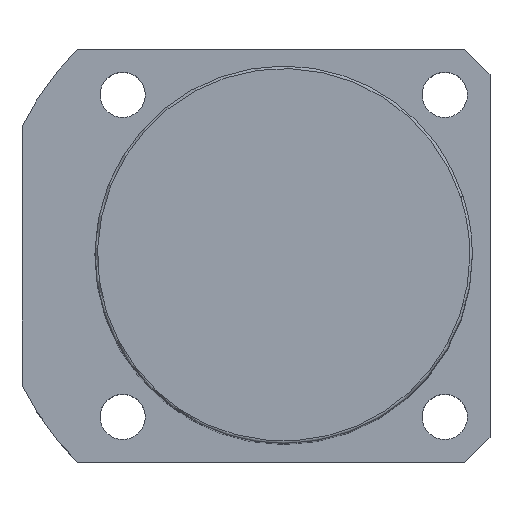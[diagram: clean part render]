
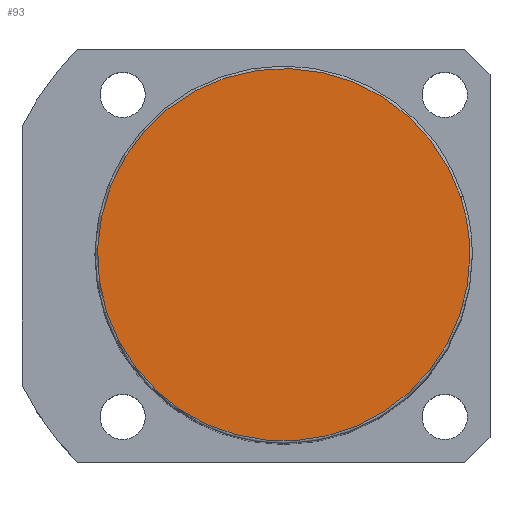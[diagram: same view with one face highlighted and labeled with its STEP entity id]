
A CAD part, top view. The second image highlights one B-rep face of the part: STEP entity #93.
In plain terms, the highlighted planar face has unit normal (0, 0, 1).
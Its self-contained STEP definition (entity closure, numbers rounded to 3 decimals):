
#16=CARTESIAN_POINT('',(35.189,11.434,143.0));
#17=VERTEX_POINT('',#16);
#45=CARTESIAN_POINT('',(-35.189,-11.434,143.0));
#46=VERTEX_POINT('',#45);
#54=CARTESIAN_POINT('',(0.0,0.0,143.0));
#55=DIRECTION('',(0.0,0.0,1.0));
#56=DIRECTION('',(1.0,0.0,0.0));
#57=AXIS2_PLACEMENT_3D('',#54,#55,#56);
#58=CIRCLE('',#57,37.0);
#59=EDGE_CURVE('no 890',#17,#46,#58,.T.);
#69=CARTESIAN_POINT('',(37.0,0.0,143.0));
#70=VERTEX_POINT('',#69);
#71=CARTESIAN_POINT('',(0.0,0.0,143.0));
#72=DIRECTION('',(0.0,0.0,1.0));
#73=DIRECTION('',(1.0,0.0,0.0));
#74=AXIS2_PLACEMENT_3D('',#71,#72,#73);
#75=CIRCLE('',#74,37.0);
#76=EDGE_CURVE('no 899',#70,#17,#75,.T.);
#77=ORIENTED_EDGE('',*,*,#76,.T.);
#78=ORIENTED_EDGE('',*,*,#59,.T.);
#79=CARTESIAN_POINT('',(0.0,0.0,143.0));
#80=DIRECTION('',(0.0,0.0,1.0));
#81=DIRECTION('',(1.0,0.0,0.0));
#82=AXIS2_PLACEMENT_3D('',#79,#80,#81);
#83=CIRCLE('',#82,37.0);
#84=EDGE_CURVE('no 905',#46,#70,#83,.T.);
#85=ORIENTED_EDGE('',*,*,#84,.T.);
#86=EDGE_LOOP('',(#77,#78,#85));
#87=FACE_OUTER_BOUND('',#86,.T.);
#88=CARTESIAN_POINT('',(0.0,0.0,143.0));
#89=DIRECTION('',(0.0,0.0,1.0));
#90=DIRECTION('',(1.0,0.0,0.0));
#91=AXIS2_PLACEMENT_3D('',#88,#89,#90);
#92=PLANE('',#91);
#93=ADVANCED_FACE('no 892',(#87),#92,.T.);
